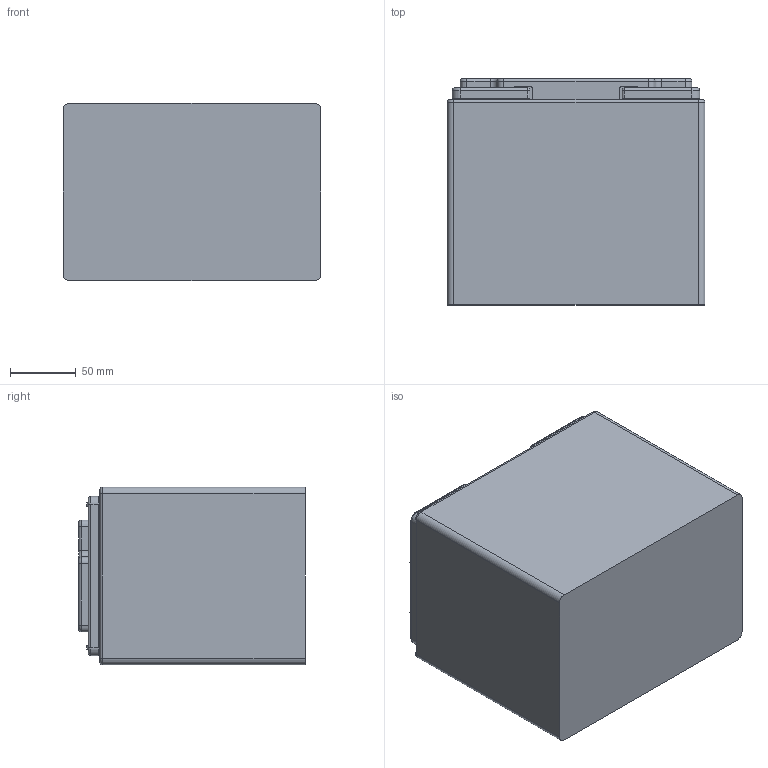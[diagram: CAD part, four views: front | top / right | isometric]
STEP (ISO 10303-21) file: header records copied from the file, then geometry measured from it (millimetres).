
FILE_DESCRIPTION (( 'STEP AP203' ), '1' );
FILE_NAME ('PB40.STEP', '2018-03-28T11:47:16', ( '' ), ( '' ), 'SwSTEP 2.0', 'SolidWorks 2018', '' );
FILE_SCHEMA (( 'CONFIG_CONTROL_DESIGN' ));
Length unit declared in the file: millimetre
Products named in the file (1): PB40
Bounding box: 196 x 172 x 135 mm (x, y, z)
Volume: 4360344 mm3; surface area: 174697.8 mm2
Topology: 1 solids, 1 shells, 161 faces, 400 edges, 244 vertices
Faces by surface type: cylinder 76, plane 61, torus 20, sphere 4
Entity records: 4857 total; most frequent: DIRECTION 874, CARTESIAN_POINT 863, ORIENTED_EDGE 792, EDGE_CURVE 396, AXIS2_PLACEMENT_3D 325, VERTEX_POINT 244, LINE 224, VECTOR 224
